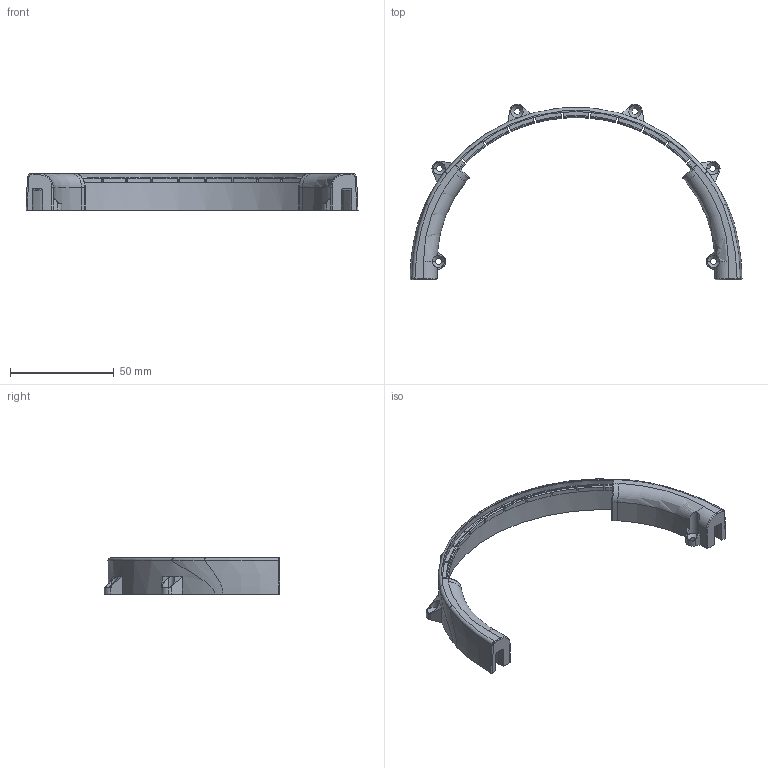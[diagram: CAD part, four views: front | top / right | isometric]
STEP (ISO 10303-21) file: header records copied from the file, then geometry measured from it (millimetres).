
FILE_DESCRIPTION (( 'STEP AP203' ), '1' );
FILE_NAME ('Razer Kraken X Headband Front 02 (short).STEP', '2021-11-10T21:15:25', ( '' ), ( '' ), 'SwSTEP 2.0', 'SolidWorks 2020', '' );
FILE_SCHEMA (( 'CONFIG_CONTROL_DESIGN' ));
Length unit declared in the file: millimetre
Products named in the file (1): Razer Kraken X Headband Front 02 (short)
Bounding box: 159.88 x 84.49 x 17.5 mm (x, y, z)
Volume: 21334.9 mm3; surface area: 16221.4 mm2
Topology: 1 solids, 1 shells, 261 faces, 708 edges, 452 vertices
Faces by surface type: plane 101, cylinder 84, cone 33, torus 33, bspline 10
Entity records: 9363 total; most frequent: CARTESIAN_POINT 2714, ORIENTED_EDGE 1416, DIRECTION 1382, EDGE_CURVE 708, AXIS2_PLACEMENT_3D 540, VERTEX_POINT 452, LINE 302, VECTOR 302
